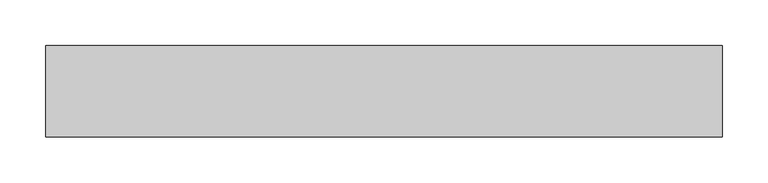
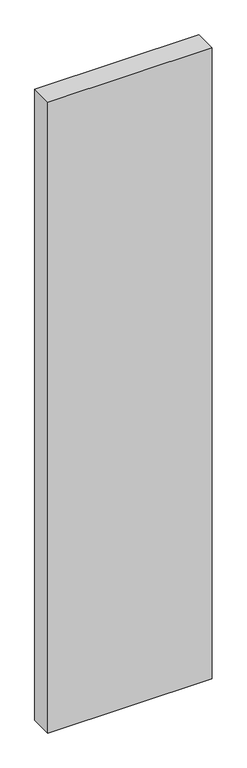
"""IFC4 building model written with IfcOpenShell, lengths in millimetres: plate geometry, Пустая системная панель : Пустая системная панель."""

from ifc_helpers import new_model, si_unit, origin, origin_with_axes, place, context, project, spatial, polyline, outline, extrude, source, transform, mapped, element, save


def plate_8300649d(model_context):
    return source(origin(), model_context, "Body", "SweptSolid", [
        extrude(outline(polyline([(370.0, -50.0), (-370.0, -50.0), (-370.0, 50.0), (370.0, 50.0), (370.0, -50.0)])), origin_with_axes(), (0.0, 0.0, 1.0), 3000.0),
    ])


if __name__ == "__main__":
    model = new_model("IFC4")
    model_context = context("Model", 3, world=origin())
    ifc_project = project(units=[si_unit("LENGTHUNIT", "METRE", prefix="MILLI")], contexts=[model_context])
    site = spatial("IfcSite", under=ifc_project)
    building = spatial("IfcBuilding", under=site)
    placement = place(None, origin())
    plate_shape = plate_8300649d(model_context)
    element("IfcPlate", 1, ObjectType="Пустая системная панель : Пустая системная панель", at=placement, inside=building, context=model_context, shape_type="MappedRepresentation", body=[
        mapped(plate_shape, transform((0.0, 0.0, 0.0), x_axis=(1.0, 0.0, 0.0), y_axis=(0.0, 1.0, 0.0), z_axis=(0.0, 0.0, 1.0))),
    ])
    save(model, "model.ifc")
